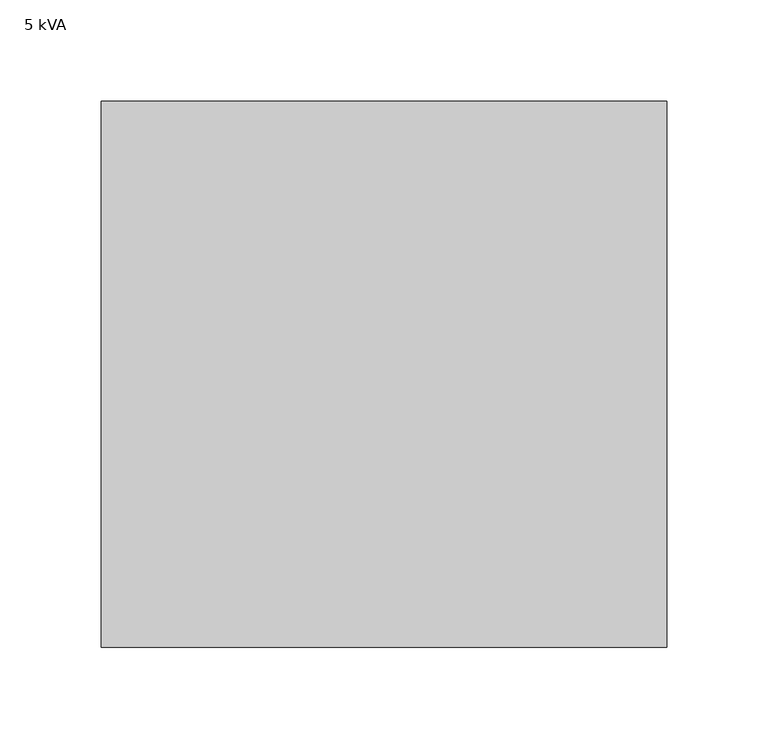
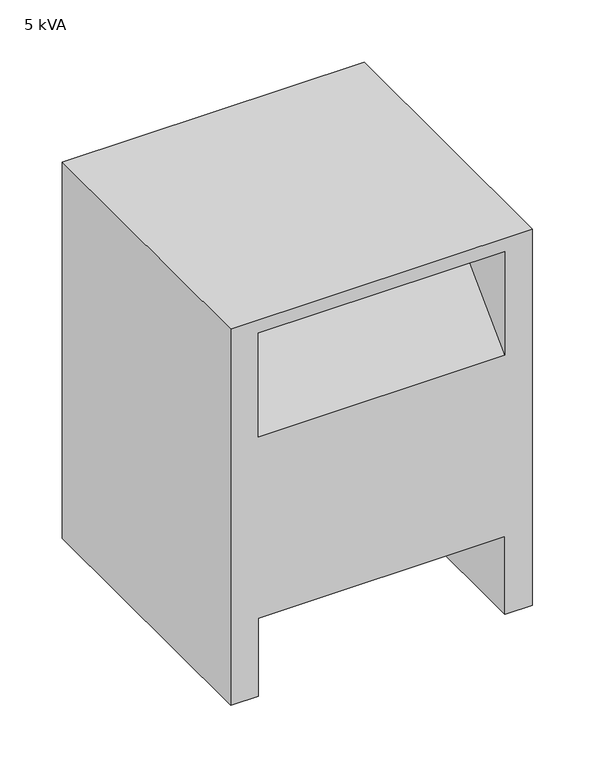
"""IFC4 building model written with IfcOpenShell, lengths in millimetres: proxy geometry, OMAHA - Dry Type Transformer - 480-240+120 : 5 kVA."""

import ifcopenshell
import ifcopenshell.guid

model = None  # the IFC model being written
_history = None  # IfcOwnerHistory: only IFC2X3 demands one
_inside = {}  # id of a spatial element -> (the spatial element, [elements in it])
_under = {}  # id of a project, library or spatial element -> (it, [spatial elements below it])
_declared = {}  # id of a project -> (the project, [libraries it declares])
_typed = {}  # id of a type object -> (the type object, [elements of that type])
_made_of = {}  # id of a material, layer set ... -> (it, [elements and type objects made of it])


def new_model(schema):
    """Start an empty IFC model of exactly this schema.

    Asked for "IFC4X3", IfcOpenShell would pick the latest addendum, in which some entities
    have other attributes; the version numbers below select the first issue.
    IFC2X3 requires an IfcOwnerHistory on every rooted entity: one is made here for all.
    """
    global model, _history
    if schema == "IFC4X3":
        model = ifcopenshell.file(schema_version=(4, 3, 0, 0))
    else:
        model = ifcopenshell.file(schema=schema)
    _inside.clear()
    _under.clear()
    _declared.clear()
    _typed.clear()
    _made_of.clear()
    _history = None
    if model.schema == "IFC2X3":
        org = make("IfcOrganization", Name="unknown")
        user = make(
            "IfcPersonAndOrganization",
            ThePerson=make("IfcPerson", FamilyName="unknown"),
            TheOrganization=org,
        )
        app = make(
            "IfcApplication",
            ApplicationDeveloper=org,
            Version="unknown",
            ApplicationFullName="unknown",
            ApplicationIdentifier="unknown",
        )
        _history = make(
            "IfcOwnerHistory",
            OwningUser=user,
            OwningApplication=app,
            ChangeAction="ADDED",
            CreationDate=0,
        )
    return model


def make(cls, **values):
    """One entity of the class cls with the attributes given. An attribute that is None is left unset."""
    return model.create_entity(
        cls, **{name: value for name, value in values.items() if value is not None}
    )


def rooted(cls, **values):
    """An entity with a GlobalId (a new one), such as an element, a storey or a relation."""
    return make(cls, GlobalId=ifcopenshell.guid.new(), OwnerHistory=_history, **values)


def si_unit(unit_type, name, prefix=None):
    """IfcSIUnit, for example si_unit("LENGTHUNIT", "METRE", prefix="MILLI")."""
    return make("IfcSIUnit", UnitType=unit_type, Prefix=prefix, Name=name)


def assignment(units):
    """IfcUnitAssignment: the units of a project."""
    return None if units is None else make("IfcUnitAssignment", Units=units)


def point(xyz):
    """IfcCartesianPoint."""
    return None if xyz is None else make("IfcCartesianPoint", Coordinates=xyz)


def direction(xyz):
    """IfcDirection."""
    return None if xyz is None else make("IfcDirection", DirectionRatios=xyz)


def frame(location, z_axis=None, x_axis=None):
    """IfcAxis2Placement3D, a coordinate frame: its origin and axes. An axis left out is left unset."""
    return make(
        "IfcAxis2Placement3D",
        Location=point(location),
        Axis=direction(z_axis),
        RefDirection=direction(x_axis),
    )


def origin():
    """The frame at (0, 0, 0) with its axes left unset."""
    return frame((0.0, 0.0, 0.0))


def place(relative_to, where):
    """IfcLocalPlacement: puts the frame where relative to a parent placement (None: the world)."""
    return make(
        "IfcLocalPlacement", PlacementRelTo=relative_to, RelativePlacement=where
    )


def context(
    kind, dimensions, precision=None, world=None, true_north=None, identifier=None
):
    """IfcGeometricRepresentationContext, for example the 3D "Model" context."""
    return make(
        "IfcGeometricRepresentationContext",
        ContextIdentifier=identifier,
        ContextType=kind,
        CoordinateSpaceDimension=dimensions,
        Precision=precision,
        WorldCoordinateSystem=world,
        TrueNorth=true_north,
    )


def project(units=None, contexts=None):
    """IfcProject with its units and contexts."""
    return rooted(
        "IfcProject",
        Name="project",
        RepresentationContexts=contexts,
        UnitsInContext=assignment(units),
    )


def spatial(cls, under=None, at=None, **own):
    """A site, building, storey or space (cls), placed at a placement, below another one or the project."""
    s = rooted(cls, ObjectPlacement=at, **own)
    if under is not None:
        _under.setdefault(under.id(), (under, []))[1].append(s)
    return s


def faces_of(points, faces, orient=None, outer=None):
    """IfcFace entities. A face is a list of loops; a loop is a list of indices into points, from 0.

    orient and outer hold one flag for each loop. By default every Orientation is true, the
    first loop of a face is its IfcFaceOuterBound and the others are IfcFaceBound.
    """
    made = []
    for i, loops in enumerate(faces):
        bounds = []
        for j, loop in enumerate(loops):
            is_outer = j == 0 if outer is None else outer[i][j]
            bounds.append(
                make(
                    "IfcFaceOuterBound" if is_outer else "IfcFaceBound",
                    Bound=make("IfcPolyLoop", Polygon=[points[k] for k in loop]),
                    Orientation=True if orient is None else orient[i][j],
                )
            )
        made.append(make("IfcFace", Bounds=bounds))
    return made


def faceted_brep(points, faces, orient=None, outer=None, voids=None):
    """IfcFacetedBrep: a solid bounded by flat faces; with voids (closed shells), ...WithVoids."""
    shared = [point(p) for p in points]
    hull = make("IfcClosedShell", CfsFaces=faces_of(shared, faces, orient, outer))
    if voids is None:
        return make("IfcFacetedBrep", Outer=hull)
    return make(
        "IfcFacetedBrepWithVoids",
        Outer=hull,
        Voids=[
            make(cls, CfsFaces=faces_of(shared, fs, o, b)) for cls, fs, o, b in voids
        ],
    )


def shape(context_of_items, identifier, shape_type, items):
    """IfcShapeRepresentation: the items that make up one representation, for example the "Body"."""
    return make(
        "IfcShapeRepresentation",
        ContextOfItems=context_of_items,
        RepresentationIdentifier=identifier,
        RepresentationType=shape_type,
        Items=items,
    )


def source(mapping_origin, context_of_items, identifier, shape_type, items):
    """IfcRepresentationMap: a shape defined once, which mapped items show again and again."""
    return make(
        "IfcRepresentationMap",
        MappingOrigin=mapping_origin,
        MappedRepresentation=shape(context_of_items, identifier, shape_type, items),
    )


def transform(
    local_origin,
    x_axis=None,
    y_axis=None,
    z_axis=None,
    scale=None,
    scale2=None,
    scale3=None,
    uniform=True,
):
    """IfcCartesianTransformationOperator3D, or its non-uniform kind. x_axis, y_axis, z_axis: its Axis1, 2, 3."""
    if uniform:
        return make(
            "IfcCartesianTransformationOperator3D",
            Axis1=direction(x_axis),
            Axis2=direction(y_axis),
            LocalOrigin=point(local_origin),
            Scale=scale,
            Axis3=direction(z_axis),
        )
    return make(
        "IfcCartesianTransformationOperator3DnonUniform",
        Axis1=direction(x_axis),
        Axis2=direction(y_axis),
        LocalOrigin=point(local_origin),
        Scale=scale,
        Axis3=direction(z_axis),
        Scale2=scale2,
        Scale3=scale3,
    )


def mapped(mapping_source, mapping_target):
    """IfcMappedItem: shows the shape of a source again, moved by a transform."""
    return make(
        "IfcMappedItem", MappingSource=mapping_source, MappingTarget=mapping_target
    )


def made_of(thing, what):
    """Note that an element or type object is made of a material, layer set ...; save() writes the relation."""
    if what is not None:
        _made_of.setdefault(what.id(), (what, []))[1].append(thing)
    return thing


def element(
    cls,
    number,
    at=None,
    inside=None,
    cuts=None,
    type_object=None,
    material=None,
    context=None,
    identifier="Body",
    shape_type=None,
    held_by="IfcProductDefinitionShape",
    body=None,
    shapes=None,
    **own,
):
    """One element of the class cls, such as IfcWall. Its Tag is "e" and its number.

    at: its placement. inside: the storey or other place that contains it. cuts: it is an
    opening in that element (IfcRelVoidsElement). A single representation is given by context,
    identifier, shape_type and body (its items); several are given by shapes. held_by: the class
    of the entity that holds the representations. save() writes the other relations.
    """
    e = rooted(cls, Tag="e%d" % number, ObjectPlacement=at, **own)
    if body is not None:
        shapes = [shape(context, identifier, shape_type, body)]
    if shapes is not None:
        e.Representation = make(held_by, Representations=shapes)
    if inside is not None:
        _inside.setdefault(inside.id(), (inside, []))[1].append(e)
    if cuts is not None:
        rooted(
            "IfcRelVoidsElement", RelatingBuildingElement=cuts, RelatedOpeningElement=e
        )
    if type_object is not None:
        _typed.setdefault(type_object.id(), (type_object, []))[1].append(e)
    return made_of(e, material)


def aggregate(whole, parts):
    """IfcRelAggregates: a whole, such as a stair, and the parts it consists of."""
    return rooted("IfcRelAggregates", RelatingObject=whole, RelatedObjects=parts)


def save(model, path):
    """Write the relations noted so far, then the file.

    IfcRelAggregates (storeys below a building ...), IfcRelContainedInSpatialStructure (elements
    in a storey), IfcRelDefinesByType, IfcRelAssociatesMaterial and IfcRelDeclares: one each for
    every whole, place, type object, material and project.
    """
    for whole, parts in _under.values():
        aggregate(whole, parts)
    for where, things in _inside.values():
        rooted(
            "IfcRelContainedInSpatialStructure",
            RelatedElements=things,
            RelatingStructure=where,
        )
    for kind, things in _typed.values():
        rooted("IfcRelDefinesByType", RelatedObjects=things, RelatingType=kind)
    for what, things in _made_of.values():
        rooted("IfcRelAssociatesMaterial", RelatedObjects=things, RelatingMaterial=what)
    for by, libraries in _declared.values():
        rooted("IfcRelDeclares", RelatingContext=by, RelatedDefinitions=libraries)
    model.write(path)


def proxy_5_kva_328efc78(model_context):
    return source(origin(), model_context, "Body", "Brep", [
        faceted_brep([(139.7, 114.9400838, 368.3), (139.7, 384.7158651, 368.3), (-139.7, 384.7158651, 368.3), (-139.7, 114.9400838, 368.3), (-139.7, 114.9400838, 0.0), (-139.7, 384.7158651, 0.0), (-114.3, 384.7158651, 0.0), (-114.3, 114.9400838, 0.0), (139.7, 384.7158651, 0.0), (139.7, 114.9400838, 0.0), (114.3, 114.9400838, 0.0), (114.3, 384.7158651, 0.0), (114.3, 384.7158651, 76.2), (-114.3, 384.7158651, 76.2), (114.3, 384.7158651, 254.0), (114.3, 384.7158651, 355.6), (-114.3, 384.7158651, 355.6), (-114.3, 384.7158651, 254.0), (-114.3, 114.9400838, 76.2), (114.3, 114.9400838, 76.2), (114.3, 114.9400838, 355.6), (114.3, 114.9400838, 254.0), (-114.3, 114.9400838, 254.0), (-114.3, 114.9400838, 355.6), (114.3, 216.5400838, 355.6), (-114.3, 216.5400838, 355.6), (114.3, 283.1158651, 355.6), (-114.3, 283.1158651, 355.6)], [[[0, 1, 2, 3]], [[4, 5, 6, 7]], [[8, 9, 10, 11]], [[1, 0, 9, 8]], [[2, 1, 8, 11, 12, 13, 6, 5], [14, 15, 16, 17]], [[3, 2, 5, 4]], [[0, 3, 4, 7, 18, 19, 10, 9], [20, 21, 22, 23]], [[18, 13, 12, 19]], [[13, 18, 7, 6]], [[19, 12, 11, 10]], [[24, 21, 20]], [[25, 23, 22]], [[24, 20, 23, 25]], [[21, 24, 25, 22]], [[26, 15, 14]], [[27, 17, 16]], [[26, 14, 17, 27]], [[15, 26, 27, 16]]]),
    ])


if __name__ == "__main__":
    model = new_model("IFC4")
    model_context = context("Model", 3, world=origin())
    ifc_project = project(units=[si_unit("LENGTHUNIT", "METRE", prefix="MILLI")], contexts=[model_context])
    site = spatial("IfcSite", under=ifc_project)
    building = spatial("IfcBuilding", under=site)
    placement = place(None, origin())
    proxy_5_kva_shape = proxy_5_kva_328efc78(model_context)
    element("IfcBuildingElementProxy", 1, Name="OMAHA - Dry Type Transformer - 480-240+120 : 5 kVA", ObjectType="OMAHA - Dry Type Transformer - 480-240+120 : 5 kVA", at=placement, inside=building, context=model_context, shape_type="MappedRepresentation", body=[
        mapped(proxy_5_kva_shape, transform((0.0, 0.0, 0.0), x_axis=(1.0, 0.0, 0.0), y_axis=(0.0, 1.0, 0.0), z_axis=(0.0, 0.0, 1.0))),
    ])
    save(model, "model.ifc")
